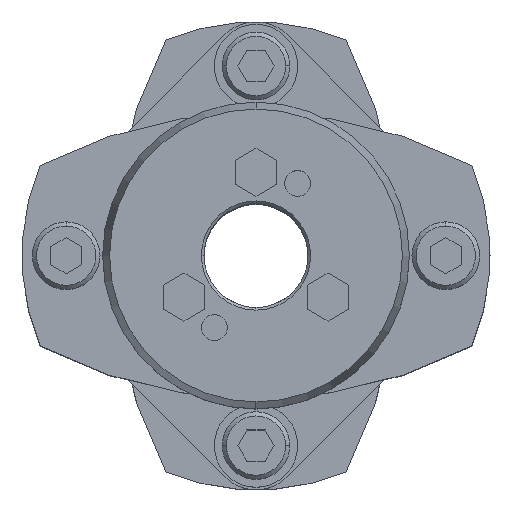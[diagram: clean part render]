
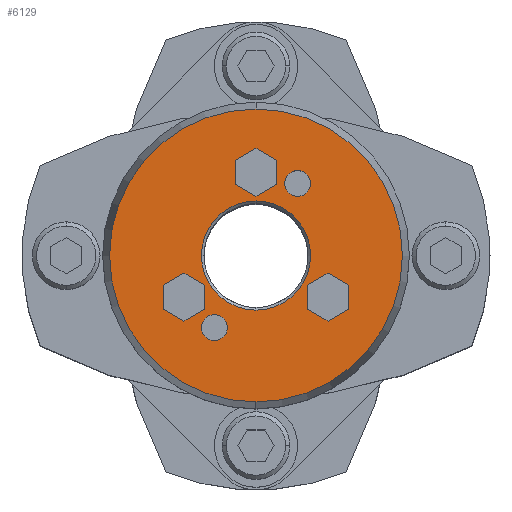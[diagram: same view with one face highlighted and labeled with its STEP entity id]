
A CAD part, top view. The second image highlights one B-rep face of the part: STEP entity #6129.
In plain terms, the highlighted planar face has unit normal (0, 0, 1).
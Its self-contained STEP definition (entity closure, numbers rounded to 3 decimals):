
#1677=CARTESIAN_POINT('',(0.,10.5,52.0));
#1678=VERTEX_POINT('',#1677);
#1694=CARTESIAN_POINT('',(0.,-10.5,52.0));
#1695=VERTEX_POINT('',#1694);
#1702=CARTESIAN_POINT('',(0.,0.,52.0));
#1703=DIRECTION('',(0.0,0.0,1.0));
#1704=DIRECTION('',(0.0,1.0,0.0));
#1705=AXIS2_PLACEMENT_3D('',#1702,#1703,#1704);
#1706=CIRCLE('',#1705,10.5);
#1707=EDGE_CURVE('',#1695,#1678,#1706,.T.);
#1865=CARTESIAN_POINT('',(0.,-28.16,52.0));
#1866=VERTEX_POINT('',#1865);
#1873=CARTESIAN_POINT('',(0.,28.16,52.0));
#1874=VERTEX_POINT('',#1873);
#1875=CARTESIAN_POINT('',(0.,0.,52.0));
#1876=DIRECTION('',(0.0,0.0,-1.0));
#1877=DIRECTION('',(0.0,-1.0,0.0));
#1878=AXIS2_PLACEMENT_3D('',#1875,#1876,#1877);
#1879=CIRCLE('',#1878,28.16);
#1880=EDGE_CURVE('',#1866,#1874,#1879,.T.);
#2123=CARTESIAN_POINT('',(8.,16.356,52.0));
#2124=VERTEX_POINT('',#2123);
#2140=CARTESIAN_POINT('',(8.,11.356,52.0));
#2141=VERTEX_POINT('',#2140);
#2148=CARTESIAN_POINT('',(8.,13.856,52.0));
#2149=DIRECTION('',(0.0,0.0,-1.0));
#2150=DIRECTION('',(0.0,1.0,0.0));
#2151=AXIS2_PLACEMENT_3D('',#2148,#2149,#2150);
#2152=CIRCLE('',#2151,2.5);
#2153=EDGE_CURVE('',#2124,#2141,#2152,.T.);
#2165=CARTESIAN_POINT('',(-8.,-11.356,52.0));
#2166=VERTEX_POINT('',#2165);
#2182=CARTESIAN_POINT('',(-8.,-16.356,52.0));
#2183=VERTEX_POINT('',#2182);
#2190=CARTESIAN_POINT('',(-8.,-13.856,52.0));
#2191=DIRECTION('',(0.0,0.0,-1.0));
#2192=DIRECTION('',(0.0,1.0,0.0));
#2193=AXIS2_PLACEMENT_3D('',#2190,#2191,#2192);
#2194=CIRCLE('',#2193,2.5);
#2195=EDGE_CURVE('',#2166,#2183,#2194,.T.);
#4645=CARTESIAN_POINT('',(13.856,-3.381,52.0));
#4646=VERTEX_POINT('',#4645);
#4653=CARTESIAN_POINT('',(9.856,-5.691,52.0));
#4654=VERTEX_POINT('',#4653);
#4655=CARTESIAN_POINT('',(9.856,-5.691,52.0));
#4656=DIRECTION('',(0.866,0.5,0.0));
#4657=VECTOR('',#4656,4.619);
#4658=LINE('',#4655,#4657);
#4659=EDGE_CURVE('',#4654,#4646,#4658,.T.);
#4683=CARTESIAN_POINT('',(17.856,-5.691,52.0));
#4684=VERTEX_POINT('',#4683);
#4691=CARTESIAN_POINT('',(13.856,-3.381,52.0));
#4692=DIRECTION('',(0.866,-0.5,0.0));
#4693=VECTOR('',#4692,4.619);
#4694=LINE('',#4691,#4693);
#4695=EDGE_CURVE('',#4646,#4684,#4694,.T.);
#4714=CARTESIAN_POINT('',(17.856,-10.309,52.0));
#4715=VERTEX_POINT('',#4714);
#4722=CARTESIAN_POINT('',(17.856,-5.691,52.0));
#4723=DIRECTION('',(0.0,-1.0,0.0));
#4724=VECTOR('',#4723,4.619);
#4725=LINE('',#4722,#4724);
#4726=EDGE_CURVE('',#4684,#4715,#4725,.T.);
#4745=CARTESIAN_POINT('',(13.856,-12.619,52.0));
#4746=VERTEX_POINT('',#4745);
#4753=CARTESIAN_POINT('',(17.856,-10.309,52.0));
#4754=DIRECTION('',(-0.866,-0.5,0.0));
#4755=VECTOR('',#4754,4.619);
#4756=LINE('',#4753,#4755);
#4757=EDGE_CURVE('',#4715,#4746,#4756,.T.);
#4776=CARTESIAN_POINT('',(9.856,-10.309,52.0));
#4777=VERTEX_POINT('',#4776);
#4784=CARTESIAN_POINT('',(13.856,-12.619,52.0));
#4785=DIRECTION('',(-0.866,0.5,0.0));
#4786=VECTOR('',#4785,4.619);
#4787=LINE('',#4784,#4786);
#4788=EDGE_CURVE('',#4746,#4777,#4787,.T.);
#4806=CARTESIAN_POINT('',(9.856,-10.309,52.0));
#4807=DIRECTION('',(0.0,1.0,0.0));
#4808=VECTOR('',#4807,4.619);
#4809=LINE('',#4806,#4808);
#4810=EDGE_CURVE('',#4777,#4654,#4809,.T.);
#4845=CARTESIAN_POINT('',(0.,20.619,52.0));
#4846=VERTEX_POINT('',#4845);
#4853=CARTESIAN_POINT('',(-4.,18.309,52.0));
#4854=VERTEX_POINT('',#4853);
#4855=CARTESIAN_POINT('',(-4.,18.309,52.0));
#4856=DIRECTION('',(0.866,0.5,0.0));
#4857=VECTOR('',#4856,4.619);
#4858=LINE('',#4855,#4857);
#4859=EDGE_CURVE('',#4854,#4846,#4858,.T.);
#4883=CARTESIAN_POINT('',(4.,18.309,52.0));
#4884=VERTEX_POINT('',#4883);
#4891=CARTESIAN_POINT('',(0.,20.619,52.0));
#4892=DIRECTION('',(0.866,-0.5,0.0));
#4893=VECTOR('',#4892,4.619);
#4894=LINE('',#4891,#4893);
#4895=EDGE_CURVE('',#4846,#4884,#4894,.T.);
#4914=CARTESIAN_POINT('',(4.,13.691,52.0));
#4915=VERTEX_POINT('',#4914);
#4922=CARTESIAN_POINT('',(4.,18.309,52.0));
#4923=DIRECTION('',(0.0,-1.0,0.0));
#4924=VECTOR('',#4923,4.619);
#4925=LINE('',#4922,#4924);
#4926=EDGE_CURVE('',#4884,#4915,#4925,.T.);
#4945=CARTESIAN_POINT('',(0.,11.381,52.0));
#4946=VERTEX_POINT('',#4945);
#4953=CARTESIAN_POINT('',(4.,13.691,52.0));
#4954=DIRECTION('',(-0.866,-0.5,0.0));
#4955=VECTOR('',#4954,4.619);
#4956=LINE('',#4953,#4955);
#4957=EDGE_CURVE('',#4915,#4946,#4956,.T.);
#4976=CARTESIAN_POINT('',(-4.,13.691,52.0));
#4977=VERTEX_POINT('',#4976);
#4984=CARTESIAN_POINT('',(0.,11.381,52.0));
#4985=DIRECTION('',(-0.866,0.5,0.0));
#4986=VECTOR('',#4985,4.619);
#4987=LINE('',#4984,#4986);
#4988=EDGE_CURVE('',#4946,#4977,#4987,.T.);
#5006=CARTESIAN_POINT('',(-4.,13.691,52.0));
#5007=DIRECTION('',(0.0,1.0,0.0));
#5008=VECTOR('',#5007,4.619);
#5009=LINE('',#5006,#5008);
#5010=EDGE_CURVE('',#4977,#4854,#5009,.T.);
#5045=CARTESIAN_POINT('',(-13.856,-3.381,52.0));
#5046=VERTEX_POINT('',#5045);
#5053=CARTESIAN_POINT('',(-17.856,-5.691,52.0));
#5054=VERTEX_POINT('',#5053);
#5055=CARTESIAN_POINT('',(-17.856,-5.691,52.0));
#5056=DIRECTION('',(0.866,0.5,0.0));
#5057=VECTOR('',#5056,4.619);
#5058=LINE('',#5055,#5057);
#5059=EDGE_CURVE('',#5054,#5046,#5058,.T.);
#5083=CARTESIAN_POINT('',(-9.856,-5.691,52.0));
#5084=VERTEX_POINT('',#5083);
#5091=CARTESIAN_POINT('',(-13.856,-3.381,52.0));
#5092=DIRECTION('',(0.866,-0.5,0.0));
#5093=VECTOR('',#5092,4.619);
#5094=LINE('',#5091,#5093);
#5095=EDGE_CURVE('',#5046,#5084,#5094,.T.);
#5114=CARTESIAN_POINT('',(-9.856,-10.309,52.0));
#5115=VERTEX_POINT('',#5114);
#5122=CARTESIAN_POINT('',(-9.856,-5.691,52.0));
#5123=DIRECTION('',(0.0,-1.0,0.0));
#5124=VECTOR('',#5123,4.619);
#5125=LINE('',#5122,#5124);
#5126=EDGE_CURVE('',#5084,#5115,#5125,.T.);
#5145=CARTESIAN_POINT('',(-13.856,-12.619,52.0));
#5146=VERTEX_POINT('',#5145);
#5153=CARTESIAN_POINT('',(-9.856,-10.309,52.0));
#5154=DIRECTION('',(-0.866,-0.5,0.0));
#5155=VECTOR('',#5154,4.619);
#5156=LINE('',#5153,#5155);
#5157=EDGE_CURVE('',#5115,#5146,#5156,.T.);
#5176=CARTESIAN_POINT('',(-17.856,-10.309,52.0));
#5177=VERTEX_POINT('',#5176);
#5184=CARTESIAN_POINT('',(-13.856,-12.619,52.0));
#5185=DIRECTION('',(-0.866,0.5,0.0));
#5186=VECTOR('',#5185,4.619);
#5187=LINE('',#5184,#5186);
#5188=EDGE_CURVE('',#5146,#5177,#5187,.T.);
#5206=CARTESIAN_POINT('',(-17.856,-10.309,52.0));
#5207=DIRECTION('',(0.0,1.0,0.0));
#5208=VECTOR('',#5207,4.619);
#5209=LINE('',#5206,#5208);
#5210=EDGE_CURVE('',#5177,#5054,#5209,.T.);
#5236=CARTESIAN_POINT('',(-8.,-13.856,52.0));
#5237=DIRECTION('',(0.0,0.0,-1.0));
#5238=DIRECTION('',(0.0,1.0,0.0));
#5239=AXIS2_PLACEMENT_3D('',#5236,#5237,#5238);
#5240=CIRCLE('',#5239,2.5);
#5241=EDGE_CURVE('',#2183,#2166,#5240,.T.);
#5270=CARTESIAN_POINT('',(8.,13.856,52.0));
#5271=DIRECTION('',(0.0,0.0,-1.0));
#5272=DIRECTION('',(0.0,1.0,0.0));
#5273=AXIS2_PLACEMENT_3D('',#5270,#5271,#5272);
#5274=CIRCLE('',#5273,2.5);
#5275=EDGE_CURVE('',#2141,#2124,#5274,.T.);
#6068=CARTESIAN_POINT('',(0.,0.,52.0));
#6069=DIRECTION('',(0.0,0.0,-1.0));
#6070=DIRECTION('',(0.0,-1.0,0.0));
#6071=AXIS2_PLACEMENT_3D('',#6068,#6069,#6070);
#6072=CIRCLE('',#6071,28.16);
#6073=EDGE_CURVE('',#1874,#1866,#6072,.T.);
#6078=CARTESIAN_POINT('',(0.,2.682,52.0));
#6079=DIRECTION('',(0.0,0.0,1.0));
#6080=DIRECTION('',(0.0,1.0,0.0));
#6081=AXIS2_PLACEMENT_3D('',#6078,#6079,#6080);
#6082=PLANE('',#6081);
#6083=ORIENTED_EDGE('',*,*,#6073,.F.);
#6084=ORIENTED_EDGE('',*,*,#1880,.F.);
#6085=EDGE_LOOP('',(#6083,#6084));
#6086=FACE_OUTER_BOUND('',#6085,.T.);
#6087=ORIENTED_EDGE('',*,*,#4659,.T.);
#6088=ORIENTED_EDGE('',*,*,#4695,.T.);
#6089=ORIENTED_EDGE('',*,*,#4726,.T.);
#6090=ORIENTED_EDGE('',*,*,#4757,.T.);
#6091=ORIENTED_EDGE('',*,*,#4788,.T.);
#6092=ORIENTED_EDGE('',*,*,#4810,.T.);
#6093=EDGE_LOOP('',(#6087,#6088,#6089,#6090,#6091,#6092));
#6094=FACE_BOUND('',#6093,.T.);
#6095=ORIENTED_EDGE('',*,*,#4859,.T.);
#6096=ORIENTED_EDGE('',*,*,#4895,.T.);
#6097=ORIENTED_EDGE('',*,*,#4926,.T.);
#6098=ORIENTED_EDGE('',*,*,#4957,.T.);
#6099=ORIENTED_EDGE('',*,*,#4988,.T.);
#6100=ORIENTED_EDGE('',*,*,#5010,.T.);
#6101=EDGE_LOOP('',(#6095,#6096,#6097,#6098,#6099,#6100));
#6102=FACE_BOUND('',#6101,.T.);
#6103=ORIENTED_EDGE('',*,*,#5059,.T.);
#6104=ORIENTED_EDGE('',*,*,#5095,.T.);
#6105=ORIENTED_EDGE('',*,*,#5126,.T.);
#6106=ORIENTED_EDGE('',*,*,#5157,.T.);
#6107=ORIENTED_EDGE('',*,*,#5188,.T.);
#6108=ORIENTED_EDGE('',*,*,#5210,.T.);
#6109=EDGE_LOOP('',(#6103,#6104,#6105,#6106,#6107,#6108));
#6110=FACE_BOUND('',#6109,.T.);
#6111=ORIENTED_EDGE('',*,*,#2195,.T.);
#6112=ORIENTED_EDGE('',*,*,#5241,.T.);
#6113=EDGE_LOOP('',(#6111,#6112));
#6114=FACE_BOUND('',#6113,.T.);
#6115=ORIENTED_EDGE('',*,*,#2153,.T.);
#6116=ORIENTED_EDGE('',*,*,#5275,.T.);
#6117=EDGE_LOOP('',(#6115,#6116));
#6118=FACE_BOUND('',#6117,.T.);
#6119=ORIENTED_EDGE('',*,*,#1707,.F.);
#6120=CARTESIAN_POINT('',(0.,0.,52.0));
#6121=DIRECTION('',(0.0,0.0,1.0));
#6122=DIRECTION('',(0.0,1.0,0.0));
#6123=AXIS2_PLACEMENT_3D('',#6120,#6121,#6122);
#6124=CIRCLE('',#6123,10.5);
#6125=EDGE_CURVE('',#1678,#1695,#6124,.T.);
#6126=ORIENTED_EDGE('',*,*,#6125,.F.);
#6127=EDGE_LOOP('',(#6119,#6126));
#6128=FACE_BOUND('',#6127,.T.);
#6129=ADVANCED_FACE('',(#6086,#6094,#6102,#6110,#6114,#6118,#6128),#6082,.T.);
